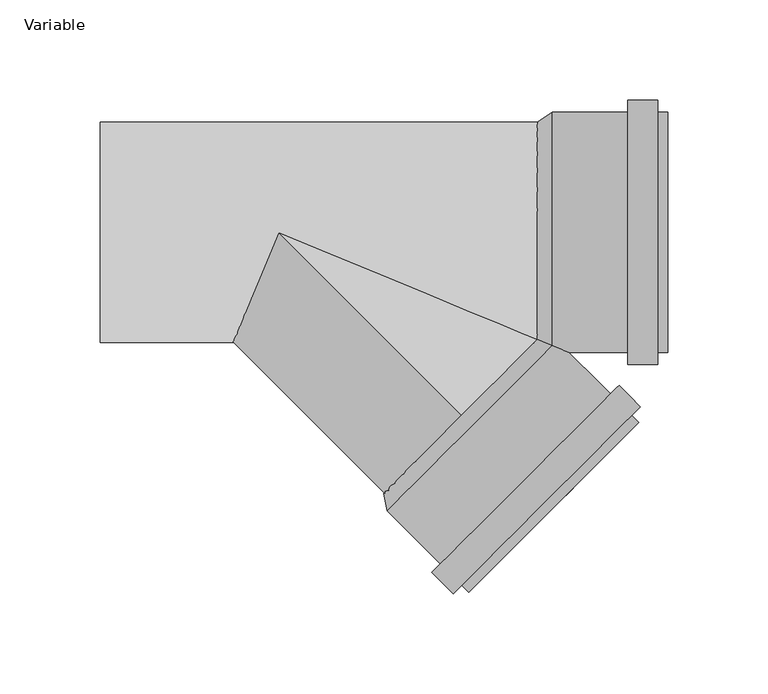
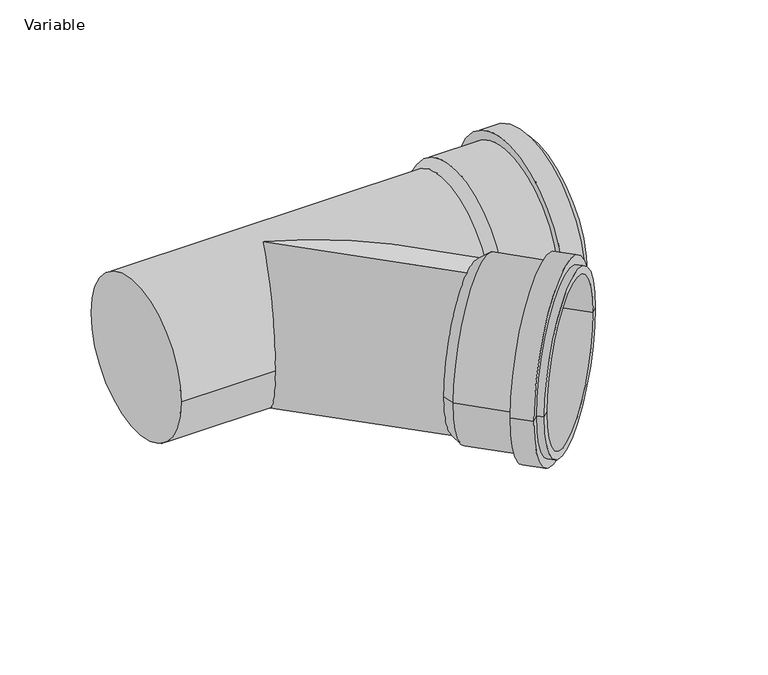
"""IFC4 building model written with IfcOpenShell, lengths in millimetres: pipe fitting geometry, AliaxisFR_Friaphon_Branch_FR : Variable."""

from ifc_helpers import new_model, si_unit, frame, origin, place, context, project, spatial, polyline, circle_curve, ellipse_curve, source, transform, mapped, element, save
from ifc_brep_helpers import plane_surface, cylinder_surface, revolved_surface, advanced_brep


def variable_33ca4dd9(model_context):
    return source(origin(), model_context, "Body", "AdvancedBrep", [
        advanced_brep(
        [(94.7523087, -179.6051224, 0.0), (179.6051224, -94.7523087, 0.0), (176.0695885, -98.2878426, 0.0), (98.2878426, -176.0695885, 0.0), (76.3675324, -169.7056275, 0.0), (169.7056275, -76.3675324, 0.0), (180.3122292, -86.9741341, 0.0), (86.9741341, -180.3122292, 0.0), (80.6101731, -165.4629868, 0.0), (165.4629868, -80.6101731, 0.0), (54.0936688, -138.9464825, 0.0), (138.9464825, -54.0936688, 0.0), (130.1076477, -52.3259018, 0.0), (52.3259018, -130.1076477, 0.0), (91.2167748, -176.0695885, 0.0), (176.0695885, -91.2167748, 0.0)],
        [
            (0, 1, circle_curve(frame((137.1787156, -137.1787156, 0.0), z_axis=(0.7071067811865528, -0.7071067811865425, 0.0), x_axis=(0.7071067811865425, 0.7071067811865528, 0.0)), 60.0)),
            (1, 2),
            (2, 3, circle_curve(frame((137.1787156, -137.1787156, 0.0), z_axis=(-0.7071067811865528, 0.7071067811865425, 0.0), x_axis=(0.7071067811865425, 0.7071067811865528, 0.0)), 55.0)),
            (3, 0),
            (1, 0, circle_curve(frame((137.1787156, -137.1787156, 0.0), z_axis=(0.7071067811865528, -0.7071067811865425, 0.0), x_axis=(0.7071067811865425, 0.7071067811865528, 0.0)), 60.0)),
            (3, 2, circle_curve(frame((137.1787156, -137.1787156, 0.0), z_axis=(-0.7071067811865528, 0.7071067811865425, 0.0), x_axis=(0.7071067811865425, 0.7071067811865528, 0.0)), 55.0)),
            (4, 5, circle_curve(frame((123.0365799, -123.0365799, 0.0), z_axis=(0.7071067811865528, -0.7071067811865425, 0.0), x_axis=(0.7071067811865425, 0.7071067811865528, 0.0)), 66.0)),
            (5, 6),
            (6, 7, circle_curve(frame((133.6431816, -133.6431816, 0.0), z_axis=(-0.7071067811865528, 0.7071067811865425, 0.0), x_axis=(0.7071067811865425, 0.7071067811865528, 0.0)), 66.0)),
            (7, 4),
            (5, 4, circle_curve(frame((123.0365799, -123.0365799, 0.0), z_axis=(0.7071067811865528, -0.7071067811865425, 0.0), x_axis=(0.7071067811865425, 0.7071067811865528, 0.0)), 66.0)),
            (7, 6, circle_curve(frame((133.6431816, -133.6431816, 0.0), z_axis=(-0.7071067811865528, 0.7071067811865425, 0.0), x_axis=(0.7071067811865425, 0.7071067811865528, 0.0)), 66.0)),
            (8, 9, circle_curve(frame((123.0365799, -123.0365799, 0.0), z_axis=(0.7071067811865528, -0.7071067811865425, 0.0), x_axis=(0.7071067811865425, 0.7071067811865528, 0.0)), 60.0)),
            (9, 5),
            (4, 8),
            (9, 8, circle_curve(frame((123.0365799, -123.0365799, 0.0), z_axis=(0.7071067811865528, -0.7071067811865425, 0.0), x_axis=(0.7071067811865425, 0.7071067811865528, 0.0)), 60.0)),
            (10, 11, circle_curve(frame((96.5200756, -96.5200756, 0.0), z_axis=(0.7071067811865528, -0.7071067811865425, 0.0), x_axis=(0.7071067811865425, 0.7071067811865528, 0.0)), 60.0)),
            (11, 9),
            (8, 10),
            (11, 10, circle_curve(frame((96.5200756, -96.5200756, 0.0), z_axis=(0.7071067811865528, -0.7071067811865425, 0.0), x_axis=(0.7071067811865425, 0.7071067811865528, 0.0)), 60.0)),
            (2, 12),
            (12, 13, circle_curve(frame((91.2167748, -91.2167748, 0.0), z_axis=(-0.7071067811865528, 0.7071067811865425, 0.0), x_axis=(0.7071067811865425, 0.7071067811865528, 0.0)), 55.0)),
            (13, 3),
            (13, 12, circle_curve(frame((91.2167748, -91.2167748, 0.0), z_axis=(-0.7071067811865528, 0.7071067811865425, 0.0), x_axis=(0.7071067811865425, 0.7071067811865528, 0.0)), 55.0)),
            (12, 11),
            (10, 13),
            (14, 15, circle_curve(frame((133.6431816, -133.6431816, 0.0), z_axis=(0.7071067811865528, -0.7071067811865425, 0.0), x_axis=(0.7071067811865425, 0.7071067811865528, 0.0)), 60.0)),
            (15, 1),
            (0, 14),
            (15, 14, circle_curve(frame((133.6431816, -133.6431816, 0.0), z_axis=(0.7071067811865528, -0.7071067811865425, 0.0), x_axis=(0.7071067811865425, 0.7071067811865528, 0.0)), 60.0)),
            (6, 15),
            (14, 7),
        ],
        [
            plane_surface(frame((137.1787156, -137.1787156, 0.0), z_axis=(0.7071067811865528, -0.7071067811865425, 0.0), x_axis=(0.7071067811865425, 0.7071067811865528, 0.0))),
            cylinder_surface(frame((91.2167748, -91.2167748, 0.0), z_axis=(-0.7071067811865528, 0.7071067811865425, 0.0), x_axis=(0.7071067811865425, 0.7071067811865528, 0.0)), 66.0),
            plane_surface(frame((123.0365799, -123.0365799, 0.0), z_axis=(-0.7071067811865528, 0.7071067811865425, 0.0), x_axis=(0.7071067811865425, 0.7071067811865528, 0.0))),
            cylinder_surface(frame((91.2167748, -91.2167748, 0.0), z_axis=(-0.7071067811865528, 0.7071067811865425, 0.0), x_axis=(0.7071067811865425, 0.7071067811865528, 0.0)), 60.0),
            revolved_surface(polyline([(130.10764771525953, -52.32590178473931, 0.0), (176.06958856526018, -98.28784263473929, 0.0)]), (91.2167748, -91.2167748, 0.0), (-0.7071067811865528, 0.7071067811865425, 0.0)),
            revolved_surface(polyline([(138.9464825, -54.0936688, 0.0), (130.1076477, -52.3259018, 0.0)]), (91.2167748, -91.2167748, 0.0), (-0.7071067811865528, 0.7071067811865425, 0.0)),
            plane_surface(frame((133.6431816, -133.6431816, 0.0), z_axis=(0.7071067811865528, -0.7071067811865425, 0.0), x_axis=(0.7071067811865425, 0.7071067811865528, 0.0))),
        ],
        [
            (0, [[1, 2, 3, 4]]),
            (0, [[5, -4, 6, -2]]),
            (1, [[7, 8, 9, 10]]),
            (1, [[11, -10, 12, -8]]),
            (2, [[13, 14, -7, 15]]),
            (2, [[16, -15, -11, -14]]),
            (3, [[17, 18, -13, 19]]),
            (3, [[20, -19, -16, -18]]),
            (4, [[-3, 21, 22, 23]]),
            (4, [[-6, -23, 24, -21]]),
            (5, [[-22, 25, -17, 26]]),
            (5, [[-24, -26, -20, -25]]),
            (3, [[27, 28, -1, 29]]),
            (3, [[30, -29, -5, -28]]),
            (6, [[-9, 31, -27, 32]]),
            (6, [[-12, -32, -30, -31]]),
        ],
    ),
        advanced_brep(
        [(194.0, -60.0, 0.0), (194.0, 60.0, 0.0), (194.0, 55.0, 0.0), (194.0, -55.0, 0.0), (174.0, -66.0, 0.0), (174.0, 66.0, 0.0), (189.0, 66.0, 0.0), (189.0, -66.0, 0.0), (174.0, -60.0, 0.0), (174.0, 60.0, 0.0), (136.5, -60.0, 0.0), (136.5, 60.0, 0.0), (129.0, 55.0, 0.0), (129.0, -55.0, 0.0), (189.0, -60.0, 0.0), (189.0, 60.0, 0.0)],
        [
            (0, 1, circle_curve(frame((194.0, 0.0, 0.0), z_axis=(1.0, 0.0, 0.0), x_axis=(0.0, 1.0, 0.0)), 60.0)),
            (1, 2),
            (2, 3, circle_curve(frame((194.0, 0.0, 0.0), z_axis=(-1.0, 0.0, 0.0), x_axis=(0.0, 1.0, 0.0)), 55.0)),
            (3, 0),
            (1, 0, circle_curve(frame((194.0, 0.0, 0.0), z_axis=(1.0, 0.0, 0.0), x_axis=(0.0, 1.0, 0.0)), 60.0)),
            (3, 2, circle_curve(frame((194.0, 0.0, 0.0), z_axis=(-1.0, 0.0, 0.0), x_axis=(0.0, 1.0, 0.0)), 55.0)),
            (4, 5, circle_curve(frame((174.0, 0.0, 0.0), z_axis=(1.0, 0.0, 0.0), x_axis=(0.0, 1.0, 0.0)), 66.0)),
            (5, 6),
            (6, 7, circle_curve(frame((189.0, 0.0, 0.0), z_axis=(-1.0, 0.0, 0.0), x_axis=(0.0, 1.0, 0.0)), 66.0)),
            (7, 4),
            (5, 4, circle_curve(frame((174.0, 0.0, 0.0), z_axis=(1.0, 0.0, 0.0), x_axis=(0.0, 1.0, 0.0)), 66.0)),
            (7, 6, circle_curve(frame((189.0, 0.0, 0.0), z_axis=(-1.0, 0.0, 0.0), x_axis=(0.0, 1.0, 0.0)), 66.0)),
            (8, 9, circle_curve(frame((174.0, 0.0, 0.0), z_axis=(1.0, 0.0, 0.0), x_axis=(0.0, 1.0, 0.0)), 60.0)),
            (9, 5),
            (4, 8),
            (9, 8, circle_curve(frame((174.0, 0.0, 0.0), z_axis=(1.0, 0.0, 0.0), x_axis=(0.0, 1.0, 0.0)), 60.0)),
            (10, 11, circle_curve(frame((136.5, 0.0, 0.0), z_axis=(1.0, 0.0, 0.0), x_axis=(0.0, 1.0, 0.0)), 60.0)),
            (11, 9),
            (8, 10),
            (11, 10, circle_curve(frame((136.5, 0.0, 0.0), z_axis=(1.0, 0.0, 0.0), x_axis=(0.0, 1.0, 0.0)), 60.0)),
            (2, 12),
            (12, 13, circle_curve(frame((129.0, 0.0, 0.0), z_axis=(-1.0, 0.0, 0.0), x_axis=(0.0, 1.0, 0.0)), 55.0)),
            (13, 3),
            (13, 12, circle_curve(frame((129.0, 0.0, 0.0), z_axis=(-1.0, 0.0, 0.0), x_axis=(0.0, 1.0, 0.0)), 55.0)),
            (12, 11),
            (10, 13),
            (14, 15, circle_curve(frame((189.0, 0.0, 0.0), z_axis=(1.0, 0.0, 0.0), x_axis=(0.0, 1.0, 0.0)), 60.0)),
            (15, 1),
            (0, 14),
            (15, 14, circle_curve(frame((189.0, 0.0, 0.0), z_axis=(1.0, 0.0, 0.0), x_axis=(0.0, 1.0, 0.0)), 60.0)),
            (6, 15),
            (14, 7),
        ],
        [
            plane_surface(frame((194.0, 0.0, 0.0), z_axis=(1.0, 0.0, 0.0), x_axis=(0.0, 1.0, 0.0))),
            cylinder_surface(frame((129.0, 0.0, 0.0), z_axis=(-1.0, 0.0, 0.0), x_axis=(0.0, 1.0, 0.0)), 66.0),
            plane_surface(frame((174.0, 0.0, 0.0), z_axis=(-1.0, 0.0, 0.0), x_axis=(0.0, 1.0, 0.0))),
            cylinder_surface(frame((129.0, 0.0, 0.0), z_axis=(-1.0, 0.0, 0.0), x_axis=(0.0, 1.0, 0.0)), 60.0),
            revolved_surface(polyline([(129.0, 55.0, 0.0), (194.0, 55.0, 0.0)]), (129.0, 0.0, 0.0), (-1.0, 0.0, 0.0)),
            revolved_surface(polyline([(136.5, 60.0, 0.0), (129.0, 55.0, 0.0)]), (129.0, 0.0, 0.0), (-1.0, 0.0, 0.0)),
            plane_surface(frame((189.0, 0.0, 0.0), z_axis=(1.0, 0.0, 0.0), x_axis=(0.0, 1.0, 0.0))),
        ],
        [
            (0, [[1, 2, 3, 4]]),
            (0, [[5, -4, 6, -2]]),
            (1, [[7, 8, 9, 10]]),
            (1, [[11, -10, 12, -8]]),
            (2, [[13, 14, -7, 15]]),
            (2, [[16, -15, -11, -14]]),
            (3, [[17, 18, -13, 19]]),
            (3, [[20, -19, -16, -18]]),
            (4, [[-3, 21, 22, 23]]),
            (4, [[-6, -23, 24, -21]]),
            (5, [[-22, 25, -17, 26]]),
            (5, [[-24, -26, -20, -25]]),
            (3, [[27, 28, -1, 29]]),
            (3, [[30, -29, -5, -28]]),
            (6, [[-9, 31, -27, 32]]),
            (6, [[-12, -32, -30, -31]]),
        ],
    ),
        advanced_brep(
        [(134.0, -55.0, 0.0), (134.0, 55.0, 0.0), (-89.0, -55.0, 0.0), (-89.0, 55.0, 0.0), (132.7817459, -55.0, 0.0), (0.0, 0.0, -55.0), (-22.7817459, -55.0, 0.0), (0.0, 0.0, 55.0), (94.7523087, -94.7523087, -55.0), (94.7523087, -94.7523087, 55.0)],
        [
            (0, 1, circle_curve(frame((134.0, 0.0, 0.0), z_axis=(1.0, 0.0, 0.0), x_axis=(0.0, 1.0, 0.0)), 55.0)),
            (1, 0, circle_curve(frame((134.0, 0.0, 0.0), z_axis=(1.0, 0.0, 0.0), x_axis=(0.0, 1.0, 0.0)), 55.0)),
            (2, 3, circle_curve(frame((-89.0, 0.0, 0.0), z_axis=(-1.0, 0.0, 0.0), x_axis=(0.0, 1.0, 0.0)), 55.0)),
            (3, 2, circle_curve(frame((-89.0, 0.0, 0.0), z_axis=(-1.0, 0.0, 0.0), x_axis=(0.0, 1.0, 0.0)), 55.0)),
            (0, 4),
            (4, 5, ellipse_curve(frame((0.0, 0.0, 0.0), z_axis=(0.3826834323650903, 0.9238795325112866, 0.0), x_axis=(0.9238795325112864, -0.3826834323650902, 0.0)), 143.7219261, 55.0)),
            (5, 6, ellipse_curve(frame((0.0, 0.0, 0.0), z_axis=(-0.9238795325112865, 0.3826834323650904, 0.0), x_axis=(0.3826834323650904, 0.9238795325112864, 0.0)), 59.531571, 55.0)),
            (6, 2),
            (3, 1),
            (6, 7, ellipse_curve(frame((0.0, 0.0, 0.0), z_axis=(-0.9238795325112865, 0.3826834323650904, 0.0), x_axis=(0.3826834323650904, 0.9238795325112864, 0.0)), 59.531571, 55.0)),
            (7, 4, ellipse_curve(frame((0.0, 0.0, 0.0), z_axis=(0.3826834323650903, 0.9238795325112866, 0.0), x_axis=(0.9238795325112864, -0.3826834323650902, 0.0)), 143.7219261, 55.0)),
            (8, 9, circle_curve(frame((94.7523087, -94.7523087, 0.0), z_axis=(0.7071067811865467, -0.7071067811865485, 0.0), x_axis=(0.0, 0.0, 1.0)), 55.0)),
            (9, 8, circle_curve(frame((94.7523087, -94.7523087, 0.0), z_axis=(0.7071067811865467, -0.7071067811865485, 0.0), x_axis=(0.0, 0.0, 1.0)), 55.0)),
            (8, 5),
            (7, 9),
        ],
        [
            plane_surface(frame((134.0, 55.0, 0.0), z_axis=(1.0, 0.0, 0.0), x_axis=(0.0, 0.0, 1.0))),
            plane_surface(frame((-89.0, 55.0, 0.0), z_axis=(-1.0, 0.0, 0.0), x_axis=(0.0, 0.0, -1.0))),
            cylinder_surface(frame((-89.0, 0.0, 0.0), z_axis=(1.0, 0.0, 0.0), x_axis=(0.0, 1.0, 0.0)), 55.0),
            plane_surface(frame((94.7523087, -94.7523087, 55.0), z_axis=(0.707106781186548, -0.7071067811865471, 0.0), x_axis=(-0.7071067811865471, -0.707106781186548, 0.0))),
            cylinder_surface(frame((94.7523087, -94.7523087, 0.0), z_axis=(-0.7071067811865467, 0.7071067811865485, 0.0), x_axis=(0.0, 0.0, 1.0)), 55.0),
        ],
        [
            (0, [[1, 2]]),
            (1, [[3, 4]]),
            (2, [[-1, 5, 6, 7, 8, -4, 9]]),
            (2, [[-2, -9, -3, -8, 10, 11, -5]]),
            (3, [[12, 13]]),
            (4, [[-12, 14, -6, -11, 15]]),
            (4, [[-13, -15, -10, -7, -14]]),
        ],
    ),
    ])


if __name__ == "__main__":
    model = new_model("IFC4")
    model_context = context("Model", 3, world=origin())
    ifc_project = project(units=[si_unit("LENGTHUNIT", "METRE", prefix="MILLI")], contexts=[model_context])
    site = spatial("IfcSite", under=ifc_project)
    building = spatial("IfcBuilding", under=site)
    placement = place(None, origin())
    variable_shape = variable_33ca4dd9(model_context)
    element("IfcPipeFitting", 1, ObjectType="AliaxisFR_Friaphon_Branch_FR : Variable", at=placement, inside=building, context=model_context, shape_type="MappedRepresentation", body=[
        mapped(variable_shape, transform((0.0, 0.0, 0.0), x_axis=(1.0, 0.0, 0.0), y_axis=(0.0, 1.0, 0.0), z_axis=(0.0, 0.0, 1.0))),
    ])
    save(model, "model.ifc")
